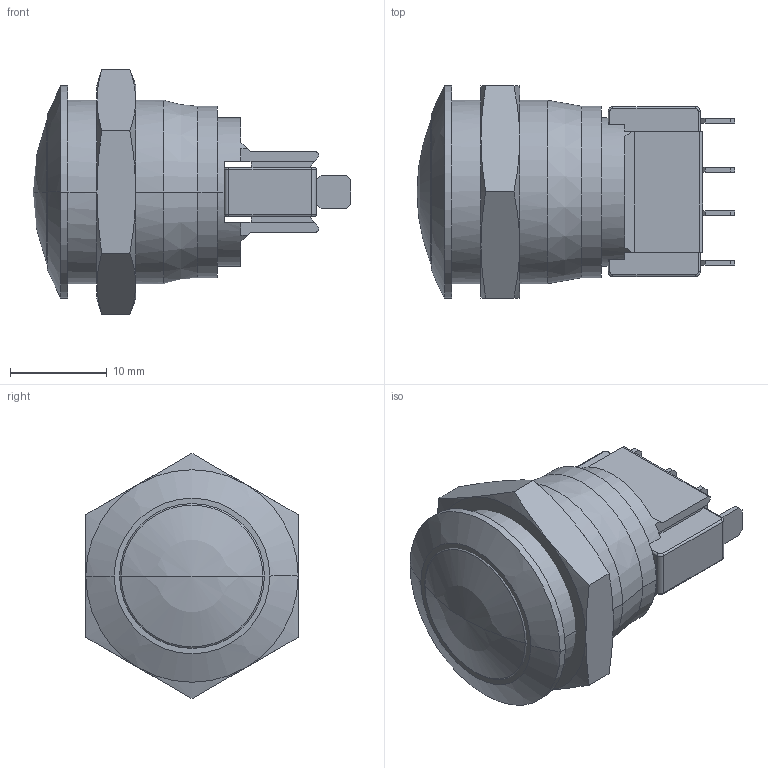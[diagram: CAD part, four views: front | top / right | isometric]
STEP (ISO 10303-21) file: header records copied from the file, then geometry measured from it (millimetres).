
FILE_DESCRIPTION((''),'2;1');
FILE_NAME('AV19LB407','2014-12-22T',('brevel'),(''),'PRO/ENGINEER BY PARAMETRIC TECHNOLOGY CORPORATION, 2013410','PRO/ENGINEER BY PARAMETRIC TECHNOLOGY CORPORATION, 2013410','');
FILE_SCHEMA(('CONFIG_CONTROL_DESIGN'));
Length unit declared in the file: millimetre
Products named in the file (1): AV19LB407
Bounding box: 32.93 x 22 x 25.4 mm (x, y, z)
Surface area: 4640.5 mm2 (no closed solid volume)
Topology: 0 solids, 11 shells, 179 faces, 501 edges, 320 vertices
Faces by surface type: plane 109, cylinder 34, cone 14, torus 14, sphere 6, bspline 2
Entity records: 5915 total; most frequent: CARTESIAN_POINT 1352, DIRECTION 948, ORIENTED_EDGE 909, EDGE_CURVE 495, VECTOR 324, LINE 324, VERTEX_POINT 320, AXIS2_PLACEMENT_3D 312
